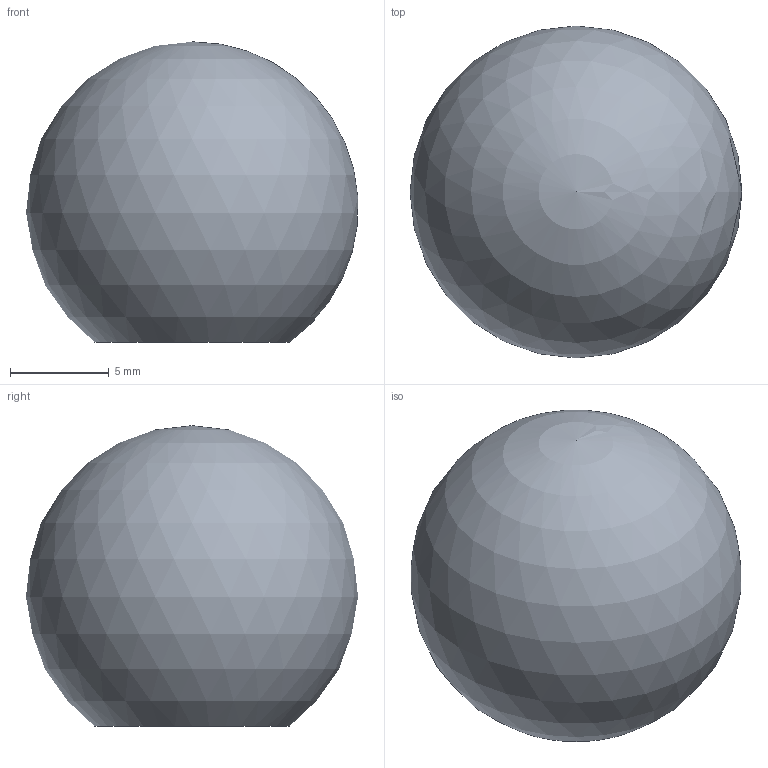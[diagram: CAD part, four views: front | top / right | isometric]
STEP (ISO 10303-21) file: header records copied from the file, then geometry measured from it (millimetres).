
FILE_DESCRIPTION( ('This file contains a STEP AP42 implementation' ,'as created by ZW3D STEP Interface translator.') ,'2;1' );
FILE_NAME( 'Galka kulista DK16 typB.stp' ,'26 4 1. 728 0', (''), ('ZWCAD Software Co.'), 'Version 1.0', 'ZW3D to STEP translator', '' );
FILE_SCHEMA(('AP242_MANAGED_MODEL_BASED_3D_ENGINEERING_MIM_LF { 1 0 10303 442 1 1 4 }'));
Length unit declared in the file: millimetre
Products named in the file (1): 0
Bounding box: 16.78 x 16.79 x 15.2 mm (x, y, z)
Volume: 2265.9 mm3; surface area: 1020.9 mm2
Topology: 1 solids, 1 shells, 5 faces, 8 edges, 5 vertices
Faces by surface type: plane 2, sphere 1, cone 1, cylinder 1
Full cylindrical faces by diameter (mm): 4.2 x1
Entity records: 139 total; most frequent: DIRECTION 24, CARTESIAN_POINT 18, ORIENTED_EDGE 14, AXIS2_PLACEMENT_3D 11, EDGE_CURVE 7, EDGE_LOOP 6, VERTEX_POINT 5, CIRCLE 5
